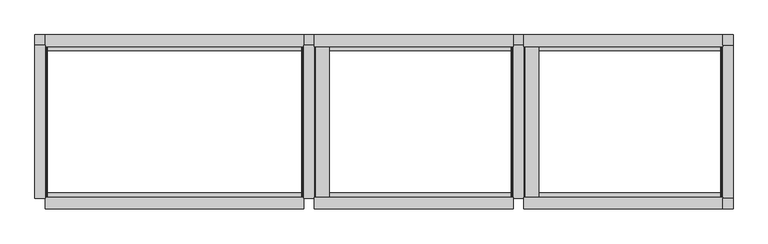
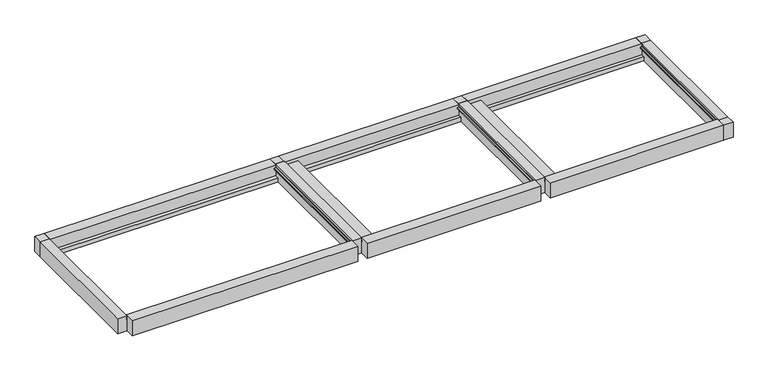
"""IFC4 building model written with IfcOpenShell, lengths in millimetres: proxy geometry, Renson_Camargue_Skye_Facade-Mounted_Patio covers : Renson_Camargue_Skye_Facade-Mounted_Patio covers."""

from ifc_helpers import new_model, si_unit, frame, origin, place, context, project, spatial, polyline, outline, extrude, source, transform, mapped, element, save


def generic_models_a743d6f9(model_context):
    return source(origin(), model_context, "Body", "SweptSolid", [
        extrude(outline(polyline([(2441.6559373, 5000.0), (2441.6559373, 5210.0), (2455.6555802, 5213.7512887), (2455.6555802, 5020.4059055), (2471.400763, 5005.0), (2479.2449277, 5005.0), (2479.6823598, 5000.0), (2441.6559373, 5000.0)])), frame((0.0, -1100.0, 0.0), z_axis=(0.0, 1.0, 0.0), x_axis=(0.0, 0.0, 1.0)), (0.0, 0.0, 1.0), 2200.0),
        extrude(outline(polyline([(8000.0, -1100.0), (8000.0, -1250.0), (7850.0, -1250.0), (7850.0, -1100.0), (8000.0, -1100.0)])), frame((0.0, 0.0, 2250.0), z_axis=(0.0, 0.0, 1.0), x_axis=(1.0, 0.0, 0.0)), (0.0, 0.0, 1.0), 260.0),
        extrude(outline(polyline([(8000.0, 1100.0), (7850.0, 1100.0), (7850.0, 1250.0), (8000.0, 1250.0), (8000.0, 1100.0)])), frame((0.0, 0.0, 2250.0), z_axis=(0.0, 0.0, 1.0), x_axis=(1.0, 0.0, 0.0)), (0.0, 0.0, 1.0), 260.0),
        extrude(outline(polyline([(1080.0, 2510.0), (1250.0, 2510.0), (1250.0, 2250.0), (1020.0, 2250.0), (1020.0, 2322.0), (1080.0, 2322.0), (1080.0, 2510.0)])), frame((5000.0, 0.0, 0.0), z_axis=(1.0, 0.0, 0.0), x_axis=(0.0, 1.0, 0.0)), (0.0, 0.0, 1.0), 2850.0),
        extrude(outline(polyline([(-1250.0, 2250.0), (-1250.0, 2510.0), (-1080.0, 2510.0), (-1080.0, 2322.0), (-1020.0, 2322.0), (-1020.0, 2250.0), (-1250.0, 2250.0)])), frame((5000.0, 0.0, 0.0), z_axis=(1.0, 0.0, 0.0), x_axis=(0.0, 1.0, 0.0)), (0.0, 0.0, 1.0), 2850.0),
        extrude(outline(polyline([(2510.0, 8000.0), (2510.0, 7850.0), (2479.6823598, 7850.0), (2479.2449277, 7845.0), (2471.400763, 7845.0), (2455.6555802, 7829.2544156), (2455.6555802, 7819.9090324), (2441.6559373, 7823.6603211), (2441.6559373, 7850.0), (2250.0, 7850.0), (2250.0, 8000.0), (2510.0, 8000.0)])), frame((0.0, -1100.0, 0.0), z_axis=(0.0, 1.0, 0.0), x_axis=(0.0, 0.0, 1.0)), (0.0, 0.0, 1.0), 2200.0),
        extrude(outline(polyline([(2441.6559373, 2000.0), (2441.6559373, 2210.0), (2455.6555802, 2213.7512887), (2455.6555802, 2020.4059055), (2471.400763, 2005.0), (2479.2449277, 2005.0), (2479.6823598, 2000.0), (2441.6559373, 2000.0)])), frame((0.0, -1100.0, 0.0), z_axis=(0.0, 1.0, 0.0), x_axis=(0.0, 0.0, 1.0)), (0.0, 0.0, 1.0), 2200.0),
        extrude(outline(polyline([(1080.0, 2510.0), (1250.0, 2510.0), (1250.0, 2250.0), (1020.0, 2250.0), (1020.0, 2322.0), (1080.0, 2322.0), (1080.0, 2510.0)])), frame((2000.0, 0.0, 0.0), z_axis=(1.0, 0.0, 0.0), x_axis=(0.0, 1.0, 0.0)), (0.0, 0.0, 1.0), 2850.0),
        extrude(outline(polyline([(-1250.0, 2250.0), (-1250.0, 2510.0), (-1080.0, 2510.0), (-1080.0, 2322.0), (-1020.0, 2322.0), (-1020.0, 2250.0), (-1250.0, 2250.0)])), frame((2000.0, 0.0, 0.0), z_axis=(1.0, 0.0, 0.0), x_axis=(0.0, 1.0, 0.0)), (0.0, 0.0, 1.0), 2850.0),
        extrude(outline(polyline([(2510.0, 5000.0), (2510.0, 4850.0), (2479.6823598, 4850.0), (2479.2449277, 4845.0), (2471.400763, 4845.0), (2455.6555802, 4829.2544156), (2455.6555802, 4819.9090324), (2441.6559373, 4823.6603211), (2441.6559373, 4850.0), (2250.0, 4850.0), (2250.0, 5000.0), (2510.0, 5000.0)])), frame((0.0, -1100.0, 0.0), z_axis=(0.0, 1.0, 0.0), x_axis=(0.0, 0.0, 1.0)), (0.0, 0.0, 1.0), 2200.0),
        extrude(outline(polyline([(5000.0, 1100.0), (4850.0, 1100.0), (4850.0, 1250.0), (5000.0, 1250.0), (5000.0, 1100.0)])), frame((0.0, 0.0, 2250.0), z_axis=(0.0, 0.0, 1.0), x_axis=(1.0, 0.0, 0.0)), (0.0, 0.0, 1.0), 260.0),
        extrude(outline(polyline([(2441.6559373, -1850.0), (2441.6559373, -1824.0), (2455.6555802, -1820.2487113), (2455.6555802, -1829.5940945), (2471.400763, -1845.0), (2479.2449277, -1845.0), (2479.6823598, -1850.0), (2441.6559373, -1850.0)])), frame((0.0, -1100.0, 0.0), z_axis=(0.0, 1.0, 0.0), x_axis=(0.0, 0.0, 1.0)), (0.0, 0.0, 1.0), 2200.0),
        extrude(outline(polyline([(-1850.0, 1100.0), (-1850.0, -1100.0), (-2000.0, -1100.0), (-2000.0, 1100.0), (-1850.0, 1100.0)])), frame((0.0, 0.0, 2250.0), z_axis=(0.0, 0.0, 1.0), x_axis=(1.0, 0.0, 0.0)), (0.0, 0.0, 1.0), 260.0),
        extrude(outline(polyline([(2510.0, 2000.0), (2510.0, 1850.0), (2479.6904658, 1850.0), (2479.2449277, 1845.0), (2471.400763, 1845.0), (2455.6555802, 1829.2544156), (2455.6555802, 1819.9090324), (2441.6559373, 1823.6603211), (2441.6559373, 1850.0), (2250.0, 1850.0), (2250.0, 2000.0), (2510.0, 2000.0)])), frame((0.0, -1100.0, 0.0), z_axis=(0.0, 1.0, 0.0), x_axis=(0.0, 0.0, 1.0)), (0.0, 0.0, 1.0), 2200.0),
        extrude(outline(polyline([(1080.0, 2510.0), (1250.0, 2510.0), (1250.0, 2250.0), (1020.0, 2250.0), (1020.0, 2322.0), (1080.0, 2322.0), (1080.0, 2510.0)])), frame((-1850.0, 0.0, 0.0), z_axis=(1.0, 0.0, 0.0), x_axis=(0.0, 1.0, 0.0)), (0.0, 0.0, 1.0), 3700.0),
        extrude(outline(polyline([(-1250.0, 2250.0), (-1250.0, 2510.0), (-1080.0, 2510.0), (-1080.0, 2322.0), (-1020.0, 2322.0), (-1020.0, 2250.0), (-1250.0, 2250.0)])), frame((-1850.0, 0.0, 0.0), z_axis=(1.0, 0.0, 0.0), x_axis=(0.0, 1.0, 0.0)), (0.0, 0.0, 1.0), 3700.0),
        extrude(outline(polyline([(2000.0, 1100.0), (1850.0, 1100.0), (1850.0, 1250.0), (2000.0, 1250.0), (2000.0, 1100.0)])), frame((0.0, 0.0, 2250.0), z_axis=(0.0, 0.0, 1.0), x_axis=(1.0, 0.0, 0.0)), (0.0, 0.0, 1.0), 260.0),
        extrude(outline(polyline([(-1850.0, 1100.0), (-2000.0, 1100.0), (-2000.0, 1250.0), (-1850.0, 1250.0), (-1850.0, 1100.0)])), frame((0.0, 0.0, 2250.0), z_axis=(0.0, 0.0, 1.0), x_axis=(1.0, 0.0, 0.0)), (0.0, 0.0, 1.0), 260.0),
    ])


if __name__ == "__main__":
    model = new_model("IFC4")
    model_context = context("Model", 3, world=origin())
    ifc_project = project(units=[si_unit("LENGTHUNIT", "METRE", prefix="MILLI")], contexts=[model_context])
    site = spatial("IfcSite", under=ifc_project)
    building = spatial("IfcBuilding", under=site)
    placement = place(None, origin())
    generic_models_shape = generic_models_a743d6f9(model_context)
    element("IfcBuildingElementProxy", 1, Name="Renson_Camargue_Skye_Facade-Mounted_Patio covers : Renson_Camargue_Skye_Facade-Mounted_Patio covers", ObjectType="Renson_Camargue_Skye_Facade-Mounted_Patio covers : Renson_Camargue_Skye_Facade-Mounted_Patio covers", at=placement, inside=building, context=model_context, shape_type="MappedRepresentation", body=[
        mapped(generic_models_shape, transform((0.0, 0.0, 0.0), x_axis=(1.0, 0.0, 0.0), y_axis=(0.0, 1.0, 0.0), z_axis=(0.0, 0.0, 1.0))),
    ])
    save(model, "model.ifc")
